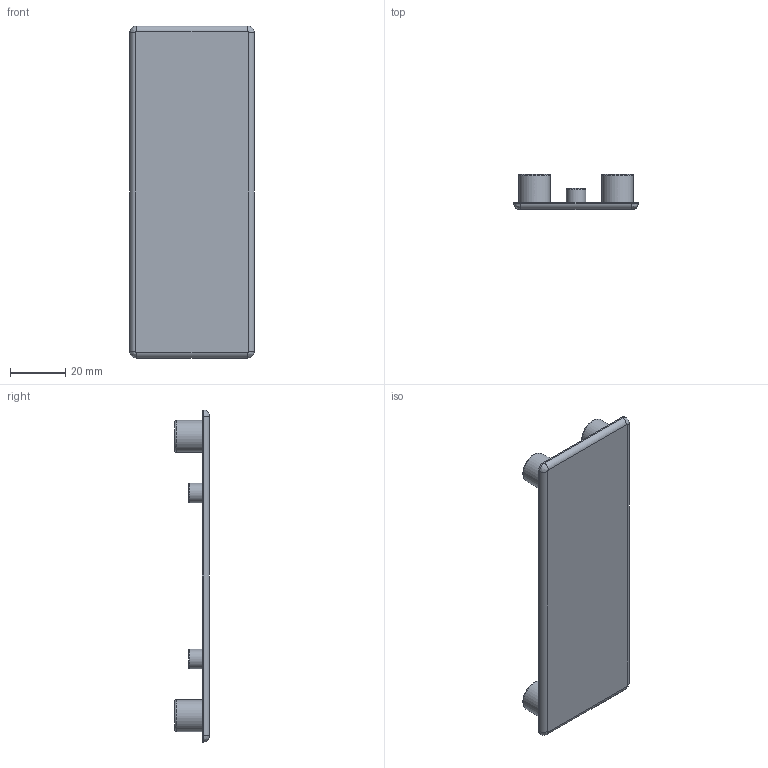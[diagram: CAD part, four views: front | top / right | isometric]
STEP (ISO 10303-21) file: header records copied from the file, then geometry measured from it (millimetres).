
FILE_DESCRIPTION(/* description */ ('STEP AP203'),/* implementation_level */ '2;1');
FILE_NAME(/* name */ 'C:\Users\Stefan.Nesic\Desktop\01010STEP\000Verifica\CORRETTI\CC45-120B.stp',/* time_stamp */ '2022-07-11T11:23:38+02:00',/* author */ ('Alusic'),/* organization */ ('Alusic'),/* preprocessor_version */ 'ST-DEVELOPER v18.1',/* originating_system */ 'Autodesk Inventor 2021',/* authorisation */ '');
FILE_SCHEMA (('AUTOMOTIVE_DESIGN { 1 0 10303 214 3 1 1 }'));
Length unit declared in the file: millimetre
Products named in the file (1): CC45-120B
Bounding box: 45 x 12.5 x 120 mm (x, y, z)
Volume: 14707.5 mm3; surface area: 14297 mm2
Topology: 1 solids, 1 shells, 48 faces, 93 edges, 59 vertices
Faces by surface type: cylinder 20, plane 18, torus 6, bspline 4
Full cylindrical faces by diameter (mm): 5 x2, 7 x2, 9.5 x4, 11.5 x4
Entity records: 1303 total; most frequent: DIRECTION 244, CARTESIAN_POINT 233, ORIENTED_EDGE 186, AXIS2_PLACEMENT_3D 106, EDGE_CURVE 93, CIRCLE 61, EDGE_LOOP 60, VERTEX_POINT 59
